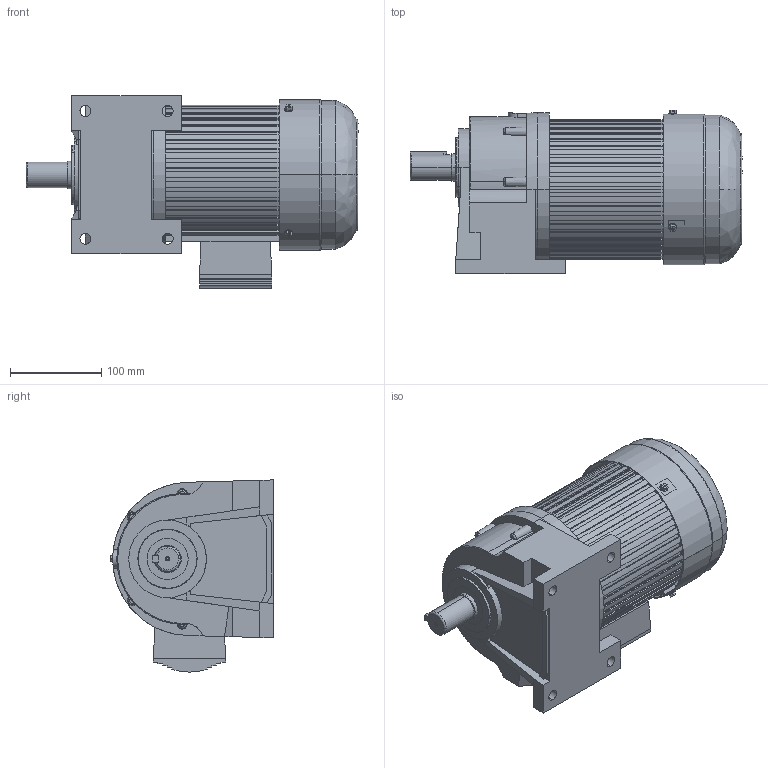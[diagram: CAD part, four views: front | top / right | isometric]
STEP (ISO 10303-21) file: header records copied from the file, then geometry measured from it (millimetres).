
FILE_DESCRIPTION (( 'STEP AP214' ), '1' );
FILE_NAME ('CH28-400W去字改颜色.STEP', '2024-01-16T03:02:52', ( '微软用户' ), ( '微软中国' ), 'SwSTEP 2.0', 'SolidWorks 2014', '' );
FILE_SCHEMA (( 'AUTOMOTIVE_DESIGN' ));
Length unit declared in the file: millimetre
Products named in the file (1): CH28-400W去字改颜色
Bounding box: 363.6 x 178.49 x 210.5 mm (x, y, z)
Volume: 3179165.4 mm3; surface area: 560651 mm2
Topology: 10 solids, 10 shells, 963 faces, 2753 edges, 1823 vertices
Faces by surface type: plane 684, cylinder 223, bspline 36, cone 20
Entity records: 34562 total; most frequent: CARTESIAN_POINT 7495, ORIENTED_EDGE 5506, DIRECTION 5100, EDGE_CURVE 2753, LINE 2146, VECTOR 2146, VERTEX_POINT 1823, AXIS2_PLACEMENT_3D 1477
